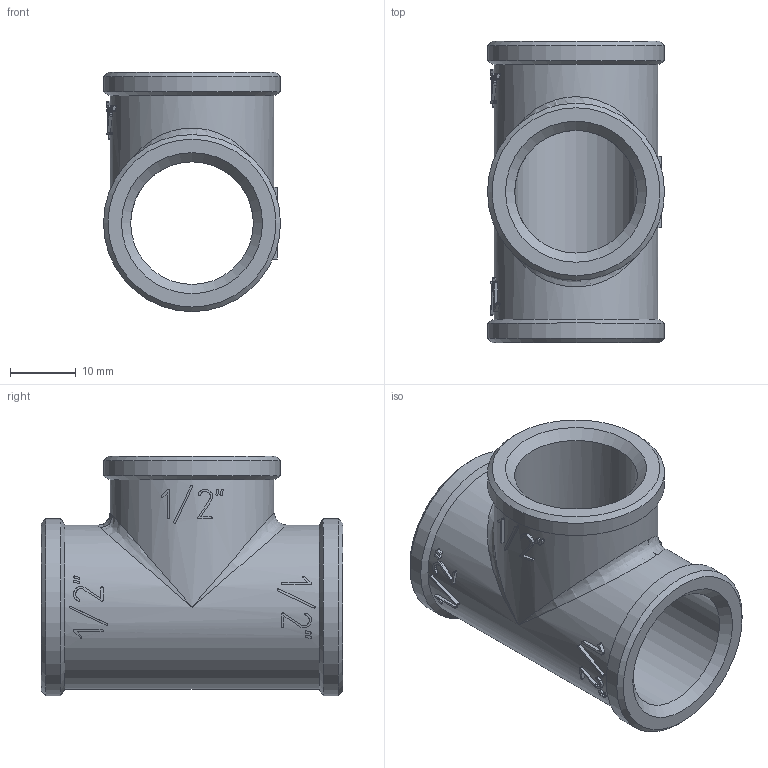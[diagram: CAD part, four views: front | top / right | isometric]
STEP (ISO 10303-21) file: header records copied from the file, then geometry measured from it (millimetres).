
FILE_DESCRIPTION(('STEP AP203'), '1');
FILE_NAME('ÂÐ.752243.002 - VTr.130.N.0004 - Ôèò. ðåçüá. òðîé', '2024-06-24T12:42:58', ('Boss'), (''), 'C3D Converter', 'C3D Toolkit', '');
FILE_SCHEMA(('CONFIG_CONTROL_DESIGN'));
Length unit declared in the file: millimetre
Products named in the file (1): ВР.752243.002
Bounding box: 27 x 46 x 36.5 mm (x, y, z)
Volume: 12556.2 mm3; surface area: 8500.7 mm2
Topology: 1 solids, 1 shells, 297 faces, 834 edges, 551 vertices
Faces by surface type: extrusion 174, plane 89, cylinder 23, cone 9, bspline 2
Full cylindrical faces by diameter (mm): 18.7 x2, 25 x2, 27 x3
Entity records: 13295 total; most frequent: CARTESIAN_POINT 6721, ORIENTED_EDGE 1624, EDGE_CURVE 812, DIRECTION 791, VERTEX_POINT 551, B_SPLINE_CURVE_WITH_KNOTS 533, VECTOR 469, EDGE_LOOP 335
